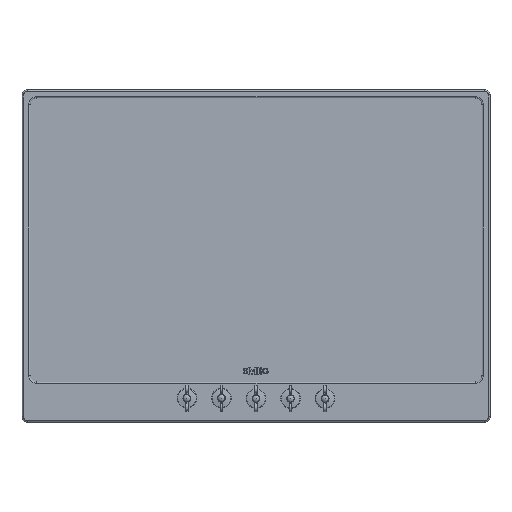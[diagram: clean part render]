
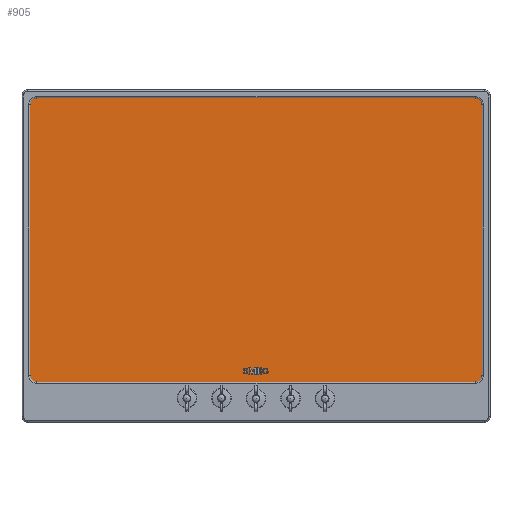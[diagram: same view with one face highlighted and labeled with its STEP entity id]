
A CAD part, top view. The second image highlights one B-rep face of the part: STEP entity #905.
In plain terms, the highlighted planar face has unit normal (0, 0, 1).
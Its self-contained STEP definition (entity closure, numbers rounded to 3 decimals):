
#605=FACE_OUTER_BOUND('',#1514,.T.);
#905=ADVANCED_FACE('',(#605),#1052,.T.);
#1052=PLANE('',#5556);
#1514=EDGE_LOOP('',(#3130,#3131,#3132,#3133,#3134,#3135,#3136,#3137));
#1810=CIRCLE('',#5540,4.);
#1812=CIRCLE('',#5544,4.);
#1814=CIRCLE('',#5548,4.);
#1816=CIRCLE('',#5552,4.);
#3130=ORIENTED_EDGE('',*,*,#4227,.T.);
#3131=ORIENTED_EDGE('',*,*,#4231,.T.);
#3132=ORIENTED_EDGE('',*,*,#4234,.T.);
#3133=ORIENTED_EDGE('',*,*,#4237,.T.);
#3134=ORIENTED_EDGE('',*,*,#4240,.T.);
#3135=ORIENTED_EDGE('',*,*,#4243,.T.);
#3136=ORIENTED_EDGE('',*,*,#4246,.T.);
#3137=ORIENTED_EDGE('',*,*,#4249,.T.);
#3575=VERTEX_POINT('',#8499);
#3576=VERTEX_POINT('',#8500);
#3579=VERTEX_POINT('',#8508);
#3581=VERTEX_POINT('',#8514);
#3583=VERTEX_POINT('',#8520);
#3585=VERTEX_POINT('',#8526);
#3587=VERTEX_POINT('',#8532);
#3589=VERTEX_POINT('',#8538);
#4227=EDGE_CURVE('',#3575,#3576,#4586,.T.);
#4231=EDGE_CURVE('',#3576,#3579,#1810,.T.);
#4234=EDGE_CURVE('',#3579,#3581,#4591,.T.);
#4237=EDGE_CURVE('',#3581,#3583,#1812,.T.);
#4240=EDGE_CURVE('',#3583,#3585,#4595,.T.);
#4243=EDGE_CURVE('',#3585,#3587,#1814,.T.);
#4246=EDGE_CURVE('',#3587,#3589,#4599,.T.);
#4249=EDGE_CURVE('',#3589,#3575,#1816,.T.);
#4586=LINE('',#8498,#4937);
#4591=LINE('',#8513,#4942);
#4595=LINE('',#8525,#4946);
#4599=LINE('',#8537,#4950);
#4937=VECTOR('',#7064,1.);
#4942=VECTOR('',#7077,1.);
#4946=VECTOR('',#7089,1.);
#4950=VECTOR('',#7101,1.);
#5540=AXIS2_PLACEMENT_3D('',#8507,#7070,#7071);
#5544=AXIS2_PLACEMENT_3D('',#8519,#7082,#7083);
#5548=AXIS2_PLACEMENT_3D('',#8531,#7094,#7095);
#5552=AXIS2_PLACEMENT_3D('',#8543,#7106,#7107);
#5556=AXIS2_PLACEMENT_3D('',#8547,#7114,#7115);
#7064=DIRECTION('',(1.,0.,0.));
#7070=DIRECTION('',(0.,0.,1.));
#7071=DIRECTION('',(1.,0.,0.));
#7077=DIRECTION('',(0.,1.,0.));
#7082=DIRECTION('',(0.,0.,1.));
#7083=DIRECTION('',(1.,0.,0.));
#7089=DIRECTION('',(-1.,0.,0.));
#7094=DIRECTION('',(0.,0.,1.));
#7095=DIRECTION('',(1.,0.,0.));
#7101=DIRECTION('',(0.,-1.,0.));
#7106=DIRECTION('',(0.,0.,1.));
#7107=DIRECTION('',(1.,0.,0.));
#7114=DIRECTION('',(0.,0.,1.));
#7115=DIRECTION('',(1.,0.,0.));
#8498=CARTESIAN_POINT('',(54.18,-1085.78,-2.));
#8499=CARTESIAN_POINT('',(54.18,-1085.78,-2.));
#8500=CARTESIAN_POINT('',(756.18,-1085.78,-2.));
#8507=CARTESIAN_POINT('',(756.18,-1081.78,-2.));
#8508=CARTESIAN_POINT('',(760.18,-1081.78,-2.));
#8513=CARTESIAN_POINT('',(760.18,-1081.78,-2.));
#8514=CARTESIAN_POINT('',(760.18,-640.78,-2.));
#8519=CARTESIAN_POINT('',(756.18,-640.78,-2.));
#8520=CARTESIAN_POINT('',(756.18,-636.78,-2.));
#8525=CARTESIAN_POINT('',(756.18,-636.78,-2.));
#8526=CARTESIAN_POINT('',(54.18,-636.78,-2.));
#8531=CARTESIAN_POINT('',(54.18,-640.78,-2.));
#8532=CARTESIAN_POINT('',(50.18,-640.78,-2.));
#8537=CARTESIAN_POINT('',(50.18,-640.78,-2.));
#8538=CARTESIAN_POINT('',(50.18,-1081.78,-2.));
#8543=CARTESIAN_POINT('',(54.18,-1081.78,-2.));
#8547=CARTESIAN_POINT('',(756.18,-1081.78,-2.));
